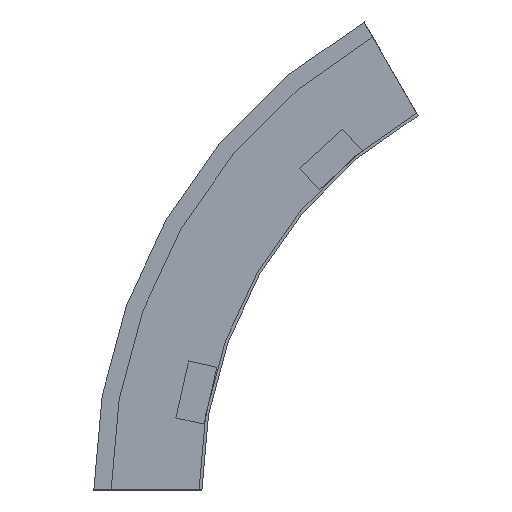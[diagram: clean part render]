
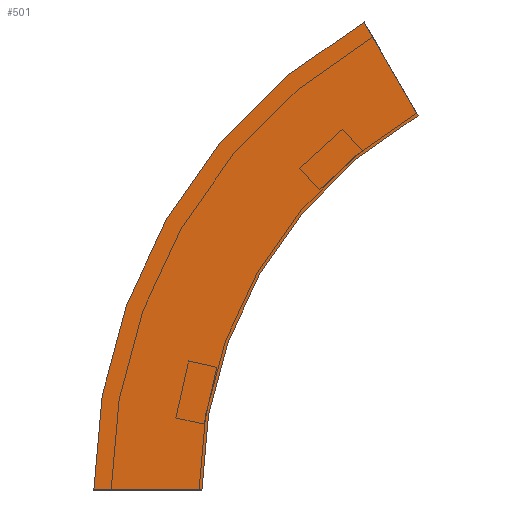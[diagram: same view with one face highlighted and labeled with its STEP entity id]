
A CAD part, left-side view. The second image highlights one B-rep face of the part: STEP entity #501.
In plain terms, the highlighted planar face has unit normal (-1, 0, 0) as drawn and (1, 0, 0) by its records, which use the part's own axes.
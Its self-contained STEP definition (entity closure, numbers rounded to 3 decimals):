
#18 = CARTESIAN_POINT ( 'NONE',  ( 0., -150., 259.808 ) ) ;
#38 = DIRECTION ( 'NONE',  ( 1., 0., 0. ) ) ;
#48 = AXIS2_PLACEMENT_3D ( 'NONE', #445, #405, #183 ) ;
#52 = VECTOR ( 'NONE', #65, 1000. ) ;
#65 = DIRECTION ( 'NONE',  ( 0., 0.5, 0.866 ) ) ;
#77 = CARTESIAN_POINT ( 'NONE',  ( 0., 75., 0. ) ) ;
#88 = EDGE_LOOP ( 'NONE', ( #518, #99, #347, #350 ) ) ;
#94 = EDGE_CURVE ( 'NONE', #482, #533, #248, .T. ) ;
#97 = CIRCLE ( 'NONE', #329, 300. ) ;
#99 = ORIENTED_EDGE ( 'NONE', *, *, #397, .F. ) ;
#104 = VERTEX_POINT ( 'NONE', #151 ) ;
#108 = CARTESIAN_POINT ( 'NONE',  ( 0., -150., 259.808 ) ) ;
#151 = CARTESIAN_POINT ( 'NONE',  ( 0., 0., 0. ) ) ;
#162 = DIRECTION ( 'NONE',  ( 1., 0., 0. ) ) ;
#183 = DIRECTION ( 'NONE',  ( 0., 1., 0. ) ) ;
#190 = EDGE_CURVE ( 'NONE', #104, #482, #219, .T. ) ;
#214 = DIRECTION ( 'NONE',  ( 0., 0., -1. ) ) ;
#219 = LINE ( 'NONE', #566, #344 ) ;
#241 = VERTEX_POINT ( 'NONE', #18 ) ;
#248 = CIRCLE ( 'NONE', #48, 375. ) ;
#263 = DIRECTION ( 'NONE',  ( 0., 1., 0. ) ) ;
#272 = FACE_OUTER_BOUND ( 'NONE', #88, .T. ) ;
#296 = AXIS2_PLACEMENT_3D ( 'NONE', #569, #38, #214 ) ;
#329 = AXIS2_PLACEMENT_3D ( 'NONE', #558, #162, #342 ) ;
#342 = DIRECTION ( 'NONE',  ( 0., 1., 0. ) ) ;
#344 = VECTOR ( 'NONE', #263, 1000. ) ;
#347 = ORIENTED_EDGE ( 'NONE', *, *, #447, .F. ) ;
#350 = ORIENTED_EDGE ( 'NONE', *, *, #190, .T. ) ;
#365 = CARTESIAN_POINT ( 'NONE',  ( 0., -112.5, 324.76 ) ) ;
#397 = EDGE_CURVE ( 'NONE', #241, #533, #463, .T. ) ;
#405 = DIRECTION ( 'NONE',  ( 1., 0., 0. ) ) ;
#445 = CARTESIAN_POINT ( 'NONE',  ( 0., -300., 0. ) ) ;
#447 = EDGE_CURVE ( 'NONE', #104, #241, #97, .T. ) ;
#463 = LINE ( 'NONE', #108, #52 ) ;
#482 = VERTEX_POINT ( 'NONE', #77 ) ;
#483 = PLANE ( 'NONE',  #296 ) ;
#501 = ADVANCED_FACE ( 'NONE', ( #272 ), #483, .T. ) ;
#518 = ORIENTED_EDGE ( 'NONE', *, *, #94, .T. ) ;
#533 = VERTEX_POINT ( 'NONE', #365 ) ;
#558 = CARTESIAN_POINT ( 'NONE',  ( 0., -300., 0. ) ) ;
#566 = CARTESIAN_POINT ( 'NONE',  ( 0., 0., 0. ) ) ;
#569 = CARTESIAN_POINT ( 'NONE',  ( 0., 0., 0. ) ) ;
